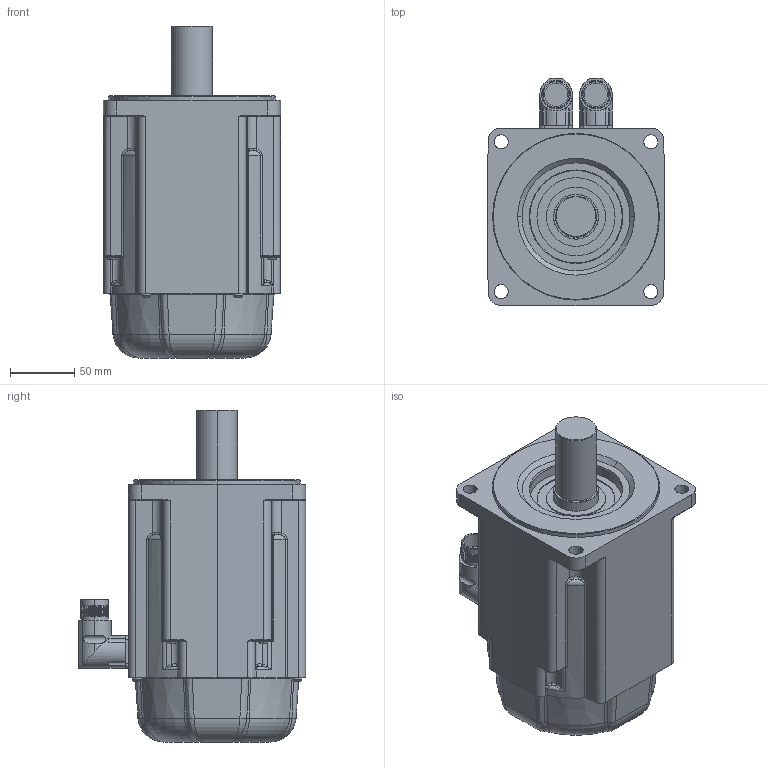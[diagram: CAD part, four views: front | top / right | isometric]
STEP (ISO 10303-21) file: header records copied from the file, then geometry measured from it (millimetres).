
FILE_DESCRIPTION (( 'STEP AP214' ), '1' );
FILE_NAME ('MR7762-Ux-Nxx-G01-A0D-MS-P0.stp', '2009-04-08T13:46:00', ( 'sysAdmin' ), ( 'SolidWorks' ), 'SwSTEP 2.0', 'SolidWorks 2009', '' );
FILE_SCHEMA (( 'AUTOMOTIVE_DESIGN' ));
Length unit declared in the file: millimetre
Products named in the file (1): MR7762-Ux-Nxx-G01-A0D-MS-P0
Bounding box: 138 x 177 x 258.7 mm (x, y, z)
Volume: 3174790.8 mm3; surface area: 153360.7 mm2
Topology: 1 solids, 1 shells, 628 faces, 1528 edges, 896 vertices
Faces by surface type: cylinder 206, cone 118, plane 116, bspline 116, torus 72
Entity records: 30119 total; most frequent: CARTESIAN_POINT 9511, ORIENTED_EDGE 2992, DIRECTION 2792, EDGE_CURVE 1496, AXIS2_PLACEMENT_3D 1199, VERTEX_POINT 896, CIRCLE 686, EDGE_LOOP 662
